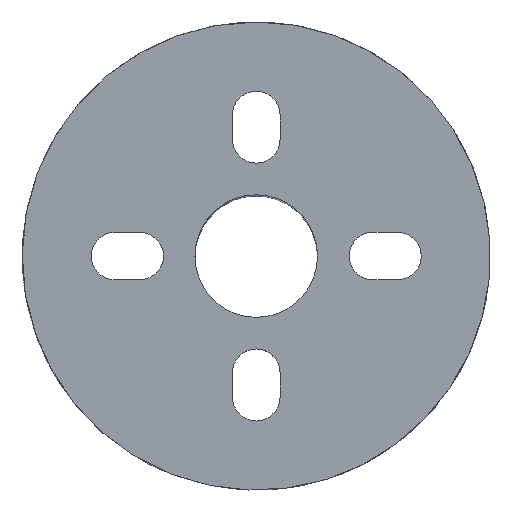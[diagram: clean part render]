
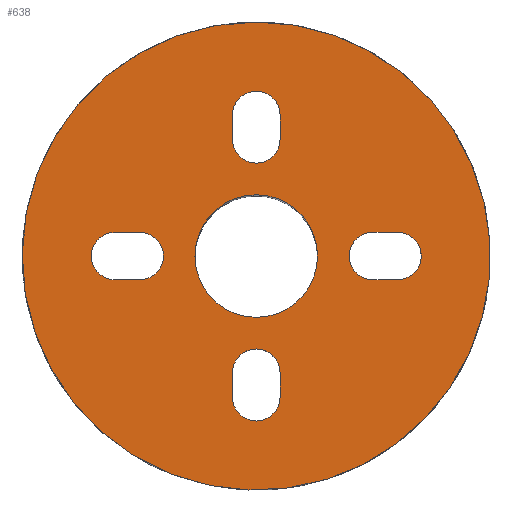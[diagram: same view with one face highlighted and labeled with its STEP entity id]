
A CAD part, top view. The second image highlights one B-rep face of the part: STEP entity #638.
In plain terms, the highlighted planar face has unit normal (0, 0, 1).
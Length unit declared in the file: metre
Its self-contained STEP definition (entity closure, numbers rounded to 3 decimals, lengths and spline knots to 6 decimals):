
#30=LINE('',#1145,#78);
#35=LINE('',#1160,#83);
#38=LINE('',#1166,#86);
#43=LINE('',#1181,#91);
#46=LINE('',#1187,#94);
#51=LINE('',#1202,#99);
#54=LINE('',#1208,#102);
#59=LINE('',#1223,#107);
#78=VECTOR('',#751,1.);
#83=VECTOR('',#764,1.);
#86=VECTOR('',#769,1.);
#91=VECTOR('',#782,1.);
#94=VECTOR('',#787,1.);
#99=VECTOR('',#800,1.);
#102=VECTOR('',#805,1.);
#107=VECTOR('',#818,1.);
#134=PLANE('',#715);
#251=ORIENTED_EDGE('',*,*,#409,.T.);
#252=ORIENTED_EDGE('',*,*,#408,.F.);
#253=ORIENTED_EDGE('',*,*,#388,.T.);
#254=ORIENTED_EDGE('',*,*,#402,.F.);
#255=ORIENTED_EDGE('',*,*,#395,.F.);
#256=ORIENTED_EDGE('',*,*,#392,.F.);
#257=ORIENTED_EDGE('',*,*,#378,.T.);
#258=ORIENTED_EDGE('',*,*,#400,.F.);
#259=ORIENTED_EDGE('',*,*,#385,.F.);
#260=ORIENTED_EDGE('',*,*,#382,.F.);
#261=ORIENTED_EDGE('',*,*,#368,.T.);
#262=ORIENTED_EDGE('',*,*,#398,.F.);
#263=ORIENTED_EDGE('',*,*,#375,.F.);
#264=ORIENTED_EDGE('',*,*,#372,.F.);
#265=ORIENTED_EDGE('',*,*,#358,.T.);
#266=ORIENTED_EDGE('',*,*,#410,.F.);
#267=ORIENTED_EDGE('',*,*,#365,.F.);
#268=ORIENTED_EDGE('',*,*,#362,.F.);
#358=EDGE_CURVE('',#449,#450,#30,.T.);
#362=EDGE_CURVE('',#449,#453,#496,.T.);
#365=EDGE_CURVE('',#453,#455,#35,.T.);
#368=EDGE_CURVE('',#457,#458,#38,.T.);
#372=EDGE_CURVE('',#457,#461,#498,.T.);
#375=EDGE_CURVE('',#461,#463,#43,.T.);
#378=EDGE_CURVE('',#465,#466,#46,.T.);
#382=EDGE_CURVE('',#465,#469,#500,.T.);
#385=EDGE_CURVE('',#469,#471,#51,.T.);
#388=EDGE_CURVE('',#473,#474,#54,.T.);
#392=EDGE_CURVE('',#473,#477,#502,.T.);
#395=EDGE_CURVE('',#477,#479,#59,.T.);
#398=EDGE_CURVE('',#463,#458,#504,.T.);
#400=EDGE_CURVE('',#471,#466,#506,.T.);
#402=EDGE_CURVE('',#479,#474,#508,.T.);
#408=EDGE_CURVE('',#481,#481,#514,.T.);
#409=EDGE_CURVE('',#482,#482,#515,.T.);
#410=EDGE_CURVE('',#455,#450,#516,.T.);
#449=VERTEX_POINT('',#1146);
#450=VERTEX_POINT('',#1147);
#453=VERTEX_POINT('',#1155);
#455=VERTEX_POINT('',#1161);
#457=VERTEX_POINT('',#1167);
#458=VERTEX_POINT('',#1168);
#461=VERTEX_POINT('',#1176);
#463=VERTEX_POINT('',#1182);
#465=VERTEX_POINT('',#1188);
#466=VERTEX_POINT('',#1189);
#469=VERTEX_POINT('',#1197);
#471=VERTEX_POINT('',#1203);
#473=VERTEX_POINT('',#1209);
#474=VERTEX_POINT('',#1210);
#477=VERTEX_POINT('',#1218);
#479=VERTEX_POINT('',#1224);
#481=VERTEX_POINT('',#1243);
#482=VERTEX_POINT('',#1246);
#496=CIRCLE('',#677,0.0016);
#498=CIRCLE('',#682,0.0016);
#500=CIRCLE('',#687,0.0016);
#502=CIRCLE('',#692,0.0016);
#504=CIRCLE('',#696,0.0016);
#506=CIRCLE('',#699,0.0016);
#508=CIRCLE('',#702,0.0016);
#514=CIRCLE('',#709,0.01575);
#515=CIRCLE('',#711,0.004125);
#516=CIRCLE('',#713,0.0016);
#544=EDGE_LOOP('',(#251));
#545=EDGE_LOOP('',(#252));
#546=EDGE_LOOP('',(#253,#254,#255,#256));
#547=EDGE_LOOP('',(#257,#258,#259,#260));
#548=EDGE_LOOP('',(#261,#262,#263,#264));
#549=EDGE_LOOP('',(#265,#266,#267,#268));
#592=FACE_BOUND('',#544,.T.);
#593=FACE_BOUND('',#545,.T.);
#594=FACE_BOUND('',#546,.T.);
#595=FACE_BOUND('',#547,.T.);
#596=FACE_BOUND('',#548,.T.);
#597=FACE_BOUND('',#549,.T.);
#638=ADVANCED_FACE('',(#592,#593,#594,#595,#596,#597),#134,.F.);
#677=AXIS2_PLACEMENT_3D('',#1154,#757,#758);
#682=AXIS2_PLACEMENT_3D('',#1175,#775,#776);
#687=AXIS2_PLACEMENT_3D('',#1196,#793,#794);
#692=AXIS2_PLACEMENT_3D('',#1217,#811,#812);
#696=AXIS2_PLACEMENT_3D('',#1229,#823,#824);
#699=AXIS2_PLACEMENT_3D('',#1232,#829,#830);
#702=AXIS2_PLACEMENT_3D('',#1235,#835,#836);
#709=AXIS2_PLACEMENT_3D('',#1242,#849,#850);
#711=AXIS2_PLACEMENT_3D('',#1245,#853,#854);
#713=AXIS2_PLACEMENT_3D('',#1248,#857,#858);
#715=AXIS2_PLACEMENT_3D('',#1250,#861,#862);
#751=DIRECTION('',(0.,1.,0.));
#757=DIRECTION('',(0.,0.,1.));
#758=DIRECTION('',(0.,1.,0.));
#764=DIRECTION('',(0.,1.,0.));
#769=DIRECTION('',(1.,0.,0.));
#775=DIRECTION('',(0.,0.,1.));
#776=DIRECTION('',(0.,1.,0.));
#782=DIRECTION('',(1.,0.,0.));
#787=DIRECTION('',(0.,-1.,0.));
#793=DIRECTION('',(0.,0.,1.));
#794=DIRECTION('',(0.,1.,0.));
#800=DIRECTION('',(0.,-1.,0.));
#805=DIRECTION('',(-1.,0.,0.));
#811=DIRECTION('',(0.,0.,1.));
#812=DIRECTION('',(0.,1.,0.));
#818=DIRECTION('',(-1.,0.,0.));
#823=DIRECTION('',(0.,0.,1.));
#824=DIRECTION('',(0.,1.,0.));
#829=DIRECTION('',(0.,0.,1.));
#830=DIRECTION('',(0.,1.,0.));
#835=DIRECTION('',(0.,0.,1.));
#836=DIRECTION('',(0.,1.,0.));
#849=DIRECTION('',(0.,0.,-1.));
#850=DIRECTION('',(0.,1.,0.));
#853=DIRECTION('',(0.,0.,-1.));
#854=DIRECTION('',(0.,1.,0.));
#857=DIRECTION('',(0.,0.,1.));
#858=DIRECTION('',(0.,1.,0.));
#861=DIRECTION('',(0.,0.,-1.));
#862=DIRECTION('',(1.,0.,0.));
#1145=CARTESIAN_POINT('',(-0.0016,-0.008675,0.));
#1146=CARTESIAN_POINT('',(-0.0016,-0.0095,0.));
#1147=CARTESIAN_POINT('',(-0.0016,-0.00785,0.));
#1154=CARTESIAN_POINT('',(0.,-0.0095,0.));
#1155=CARTESIAN_POINT('',(0.0016,-0.0095,0.));
#1160=CARTESIAN_POINT('',(0.0016,-0.008675,0.));
#1161=CARTESIAN_POINT('',(0.0016,-0.00785,0.));
#1166=CARTESIAN_POINT('',(-0.008675,0.0016,0.));
#1167=CARTESIAN_POINT('',(-0.0095,0.0016,0.));
#1168=CARTESIAN_POINT('',(-0.00785,0.0016,0.));
#1175=CARTESIAN_POINT('',(-0.0095,0.,0.));
#1176=CARTESIAN_POINT('',(-0.0095,-0.0016,0.));
#1181=CARTESIAN_POINT('',(-0.008675,-0.0016,0.));
#1182=CARTESIAN_POINT('',(-0.00785,-0.0016,0.));
#1187=CARTESIAN_POINT('',(0.0016,0.008675,0.));
#1188=CARTESIAN_POINT('',(0.0016,0.0095,0.));
#1189=CARTESIAN_POINT('',(0.0016,0.00785,0.));
#1196=CARTESIAN_POINT('',(0.,0.0095,0.));
#1197=CARTESIAN_POINT('',(-0.0016,0.0095,0.));
#1202=CARTESIAN_POINT('',(-0.0016,0.008675,0.));
#1203=CARTESIAN_POINT('',(-0.0016,0.00785,0.));
#1208=CARTESIAN_POINT('',(0.008675,-0.0016,0.));
#1209=CARTESIAN_POINT('',(0.0095,-0.0016,0.));
#1210=CARTESIAN_POINT('',(0.00785,-0.0016,0.));
#1217=CARTESIAN_POINT('',(0.0095,0.,0.));
#1218=CARTESIAN_POINT('',(0.0095,0.0016,0.));
#1223=CARTESIAN_POINT('',(0.008675,0.0016,0.));
#1224=CARTESIAN_POINT('',(0.00785,0.0016,0.));
#1229=CARTESIAN_POINT('',(-0.00785,0.,0.));
#1232=CARTESIAN_POINT('',(0.,0.00785,0.));
#1235=CARTESIAN_POINT('',(0.00785,0.,0.));
#1242=CARTESIAN_POINT('',(0.,0.,0.));
#1243=CARTESIAN_POINT('',(0.,0.01575,0.));
#1245=CARTESIAN_POINT('',(0.,0.,0.));
#1246=CARTESIAN_POINT('',(0.,0.004125,0.));
#1248=CARTESIAN_POINT('',(0.,-0.00785,0.));
#1250=CARTESIAN_POINT('',(0.004212,-0.032143,0.));
